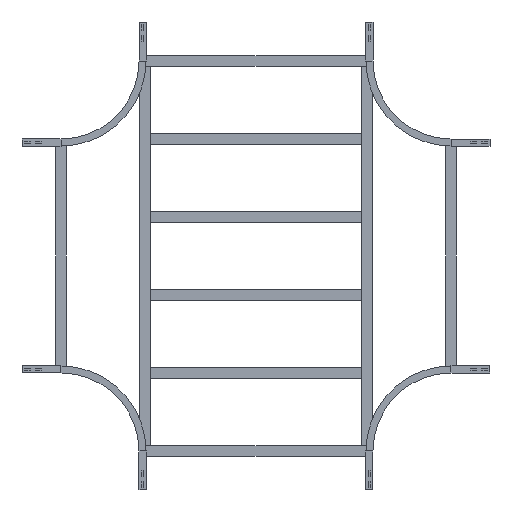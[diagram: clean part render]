
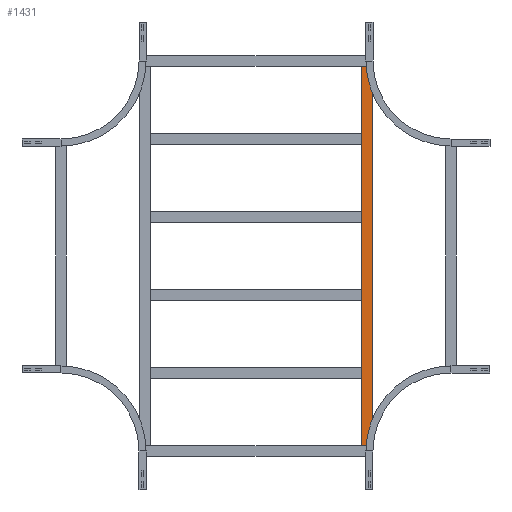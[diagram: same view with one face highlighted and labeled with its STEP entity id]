
A CAD part, front view. The second image highlights one B-rep face of the part: STEP entity #1431.
In plain terms, the highlighted planar face has unit normal (0, -1, 0).
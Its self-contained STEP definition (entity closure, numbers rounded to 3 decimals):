
#14 = DIRECTION ( 'NONE',  ( -1., 0., 0. ) ) ;
#186 = LINE ( 'NONE', #2345, #2423 ) ;
#201 = LINE ( 'NONE', #974, #789 ) ;
#397 = LINE ( 'NONE', #1932, #995 ) ;
#461 = DIRECTION ( 'NONE',  ( 0., 0., 1. ) ) ;
#549 = ORIENTED_EDGE ( 'NONE', *, *, #2295, .F. ) ;
#651 = PLANE ( 'NONE',  #2494 ) ;
#660 = CARTESIAN_POINT ( 'NONE',  ( 729.75, 0., 20.25 ) ) ;
#789 = VECTOR ( 'NONE', #14, 1000. ) ;
#822 = FACE_OUTER_BOUND ( 'NONE', #1041, .T. ) ;
#905 = ORIENTED_EDGE ( 'NONE', *, *, #1618, .F. ) ;
#914 = VERTEX_POINT ( 'NONE', #1638 ) ;
#974 = CARTESIAN_POINT ( 'NONE',  ( 729.75, 0., 20.25 ) ) ;
#984 = CARTESIAN_POINT ( 'NONE',  ( 729.75, 0., -20.25 ) ) ;
#995 = VECTOR ( 'NONE', #1317, 1000. ) ;
#1041 = EDGE_LOOP ( 'NONE', ( #1493, #549, #905, #2076 ) ) ;
#1143 = LINE ( 'NONE', #1487, #1786 ) ;
#1173 = DIRECTION ( 'NONE',  ( 0., 0., -1. ) ) ;
#1310 = VERTEX_POINT ( 'NONE', #984 ) ;
#1317 = DIRECTION ( 'NONE',  ( -1., 0., 0. ) ) ;
#1321 = EDGE_CURVE ( 'NONE', #2437, #914, #1143, .T. ) ;
#1429 = DIRECTION ( 'NONE',  ( 0., 1., 0. ) ) ;
#1431 = ADVANCED_FACE ( 'NONE', ( #822 ), #651, .F. ) ;
#1487 = CARTESIAN_POINT ( 'NONE',  ( -729.75, 0., 20.25 ) ) ;
#1493 = ORIENTED_EDGE ( 'NONE', *, *, #1321, .T. ) ;
#1570 = DIRECTION ( 'NONE',  ( 0., 0., -1. ) ) ;
#1618 = EDGE_CURVE ( 'NONE', #2344, #1310, #186, .T. ) ;
#1638 = CARTESIAN_POINT ( 'NONE',  ( -729.75, 0., -20.25 ) ) ;
#1786 = VECTOR ( 'NONE', #1570, 1000. ) ;
#1932 = CARTESIAN_POINT ( 'NONE',  ( 729.75, 0., -20.25 ) ) ;
#2076 = ORIENTED_EDGE ( 'NONE', *, *, #2318, .T. ) ;
#2117 = CARTESIAN_POINT ( 'NONE',  ( 729.75, 0., 20.25 ) ) ;
#2295 = EDGE_CURVE ( 'NONE', #1310, #914, #397, .T. ) ;
#2318 = EDGE_CURVE ( 'NONE', #2344, #2437, #201, .T. ) ;
#2344 = VERTEX_POINT ( 'NONE', #2117 ) ;
#2345 = CARTESIAN_POINT ( 'NONE',  ( 729.75, 0., 20.25 ) ) ;
#2372 = CARTESIAN_POINT ( 'NONE',  ( -729.75, 0., 20.25 ) ) ;
#2423 = VECTOR ( 'NONE', #1173, 1000. ) ;
#2437 = VERTEX_POINT ( 'NONE', #2372 ) ;
#2494 = AXIS2_PLACEMENT_3D ( 'NONE', #660, #1429, #461 ) ;
